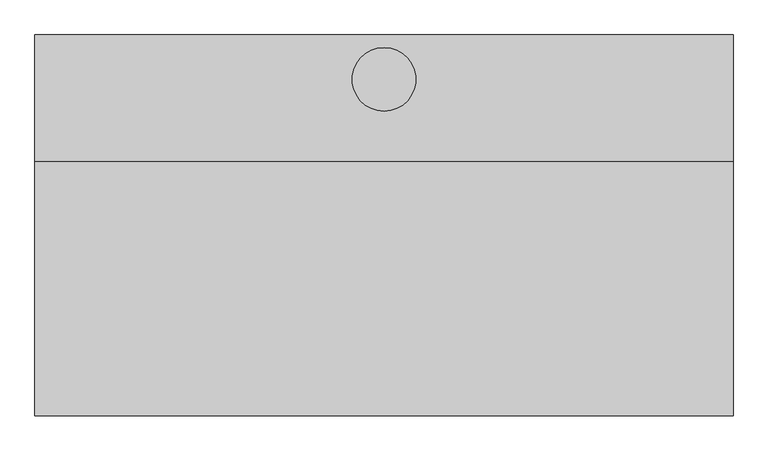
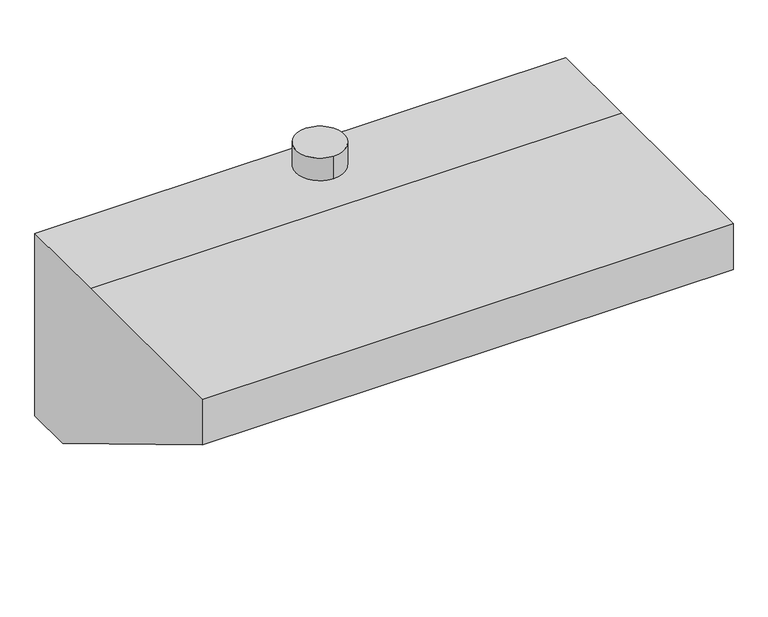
"""IFC4 building model written with IfcOpenShell, lengths in millimetres: air terminal geometry, BL_ЗонтВытяжной_Пристенный_ЗВП : BL_ЗонтВытяжной_Пристенный_ЗВП."""

from ifc_helpers import new_model, si_unit, point, frame, frame_2d, origin, place, context, project, spatial, circle_curve, trimmed, segment, composite_curve, outline, extrude, faceted_brep, source, transform, mapped, element, save


def air_terminal_726ac5b5(model_context):
    return source(origin(), model_context, "Body", "SolidModel", [
        faceted_brep([(550.0, -200.0, 400.0), (550.0, -600.0, 400.0), (550.0, -600.0, 300.0), (550.0, -100.0, 0.0), (550.0, 0.0, 0.0), (550.0, 0.0, 400.0), (-550.0, -200.0, 400.0), (-550.0, 0.0, 400.0), (-550.0, 0.0, 0.0), (-550.0, -100.0, 0.0), (-550.0, -600.0, 300.0), (-550.0, -600.0, 400.0), (-530.0, -100.0, 0.0), (-530.0, -580.0, 288.0), (530.0, -580.0, 288.0), (530.0, -100.0, 0.0), (530.0, -180.0, 380.0), (530.0, -580.0, 380.0), (-530.0, -180.0, 380.0), (-530.0, -580.0, 380.0)], [[[0, 1, 2, 3, 4, 5]], [[6, 7, 8, 9, 10, 11]], [[1, 0, 6, 11]], [[2, 1, 11, 10]], [[3, 2, 10, 9, 12, 13, 14, 15]], [[4, 3, 15, 12, 9, 8]], [[5, 4, 8, 7]], [[0, 5, 7, 6]], [[16, 15, 14, 17]], [[18, 19, 13, 12]], [[15, 16, 18, 12]], [[16, 17, 19, 18]], [[17, 14, 13, 19]]]),
        extrude(outline(composite_curve([segment(trimmed(circle_curve(frame_2d((0.0, -70.0)), 50.0), [point((0.0, -120.0))], [point((0.0, -20.0))], False, "CARTESIAN"), True, "CONTINUOUS"), segment(trimmed(circle_curve(frame_2d((0.0, -70.0)), 50.0), [point((0.0, -20.0))], [point((0.0, -120.0))], False, "CARTESIAN"), True, "CONTINUOUS")], self_intersect=False)), frame((0.0, 0.0, 400.0), z_axis=(0.0, 0.0, 1.0), x_axis=(1.0, 0.0, 0.0)), (0.0, 0.0, 1.0), 50.0),
    ])


if __name__ == "__main__":
    model = new_model("IFC4")
    model_context = context("Model", 3, world=origin())
    ifc_project = project(units=[si_unit("LENGTHUNIT", "METRE", prefix="MILLI")], contexts=[model_context])
    site = spatial("IfcSite", under=ifc_project)
    building = spatial("IfcBuilding", under=site)
    placement = place(None, origin())
    air_terminal_shape = air_terminal_726ac5b5(model_context)
    element("IfcAirTerminal", 1, ObjectType="BL_ЗонтВытяжной_Пристенный_ЗВП : BL_ЗонтВытяжной_Пристенный_ЗВП", at=placement, inside=building, context=model_context, shape_type="MappedRepresentation", body=[
        mapped(air_terminal_shape, transform((0.0, 0.0, 0.0), x_axis=(1.0, 0.0, 0.0), y_axis=(0.0, 1.0, 0.0), z_axis=(0.0, 0.0, 1.0))),
    ])
    save(model, "model.ifc")
